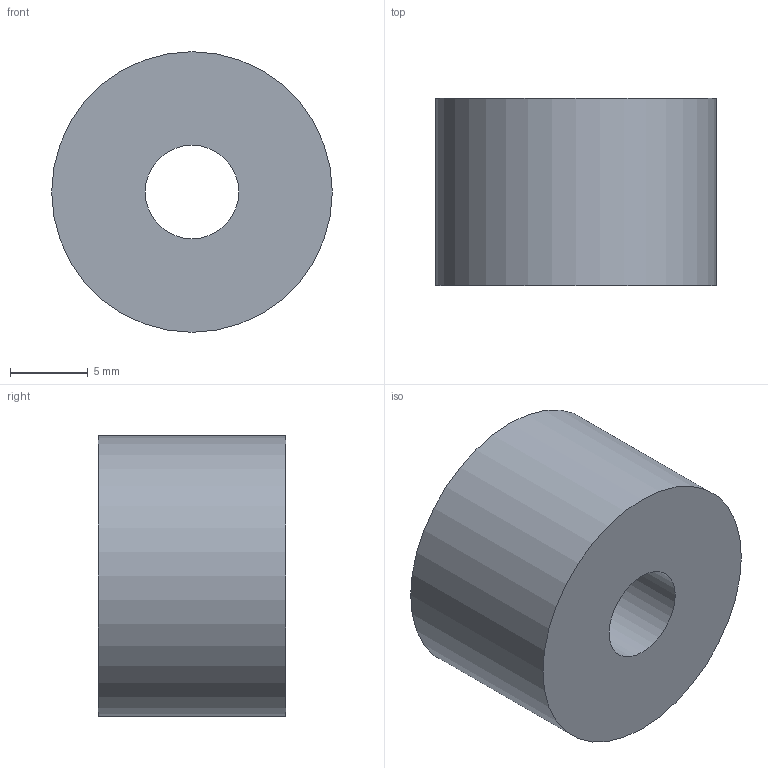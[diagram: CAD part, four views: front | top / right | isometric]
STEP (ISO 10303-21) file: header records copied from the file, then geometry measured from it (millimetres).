
FILE_DESCRIPTION(('Open CASCADE Model'),'2;1');
FILE_NAME('Open CASCADE Shape Model','2026-10-13T11:47:37',('Author'),( 'Open CASCADE'),'Open CASCADE STEP processor 7.8','Open CASCADE 7.8' ,'Unknown');
FILE_SCHEMA(('AUTOMOTIVE_DESIGN { 1 0 10303 214 1 1 1 1 }'));
Length unit declared in the file: millimetre
Products named in the file (1): Open CASCADE STEP translator 7.8 54
Bounding box: 18 x 12 x 18 mm (x, y, z)
Volume: 2714.3 mm3; surface area: 1357.2 mm2
Topology: 1 solids, 1 shells, 4 faces, 6 edges, 4 vertices
Faces by surface type: cylinder 2, plane 2
Full cylindrical faces by diameter (mm): 6 x1, 18 x1
Entity records: 186 total; most frequent: DIRECTION 32, CARTESIAN_POINT 27, ORIENTED_EDGE 12, PCURVE 12, DEFINITIONAL_REPRESENTATION 12, LINE 10, VECTOR 10, AXIS2_PLACEMENT_3D 9
